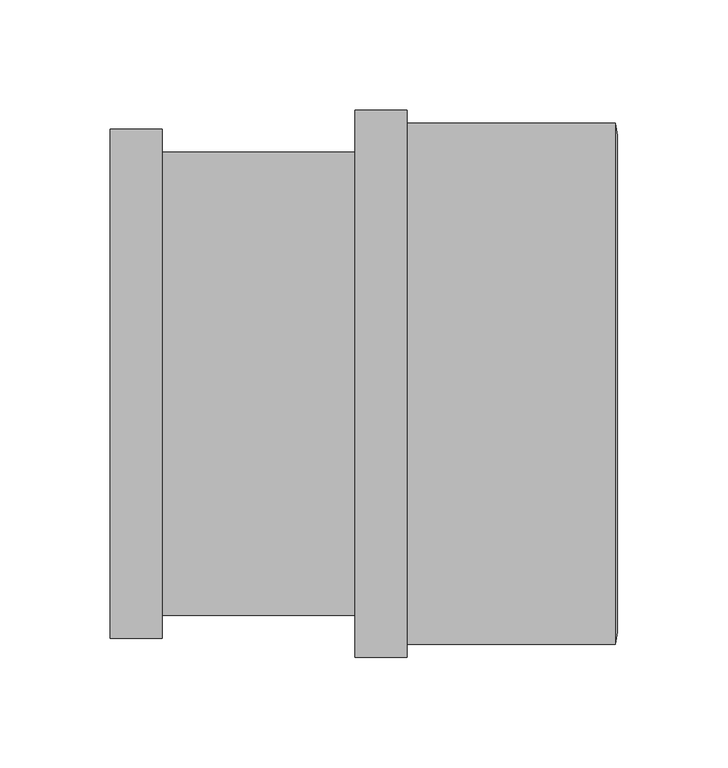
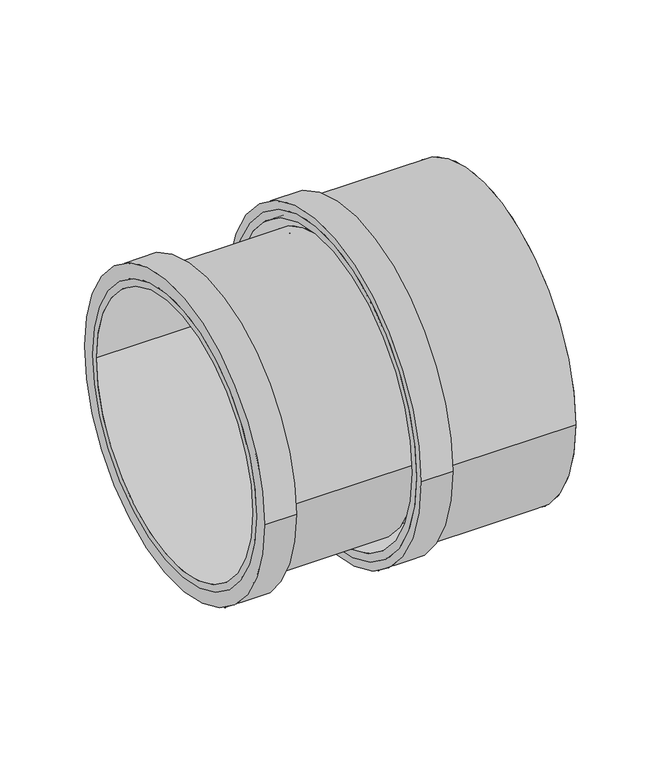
"""IFC4 building model written with IfcOpenShell, lengths in millimetres: pipe fitting geometry, Superdrain SKAM Single socket : Superdrain SKAM Single socket."""

import ifcopenshell
import ifcopenshell.guid

model = None  # the IFC model being written
_history = None  # IfcOwnerHistory: only IFC2X3 demands one
_inside = {}  # id of a spatial element -> (the spatial element, [elements in it])
_under = {}  # id of a project, library or spatial element -> (it, [spatial elements below it])
_declared = {}  # id of a project -> (the project, [libraries it declares])
_typed = {}  # id of a type object -> (the type object, [elements of that type])
_made_of = {}  # id of a material, layer set ... -> (it, [elements and type objects made of it])


def new_model(schema):
    """Start an empty IFC model of exactly this schema.

    Asked for "IFC4X3", IfcOpenShell would pick the latest addendum, in which some entities
    have other attributes; the version numbers below select the first issue.
    IFC2X3 requires an IfcOwnerHistory on every rooted entity: one is made here for all.
    """
    global model, _history
    if schema == "IFC4X3":
        model = ifcopenshell.file(schema_version=(4, 3, 0, 0))
    else:
        model = ifcopenshell.file(schema=schema)
    _inside.clear()
    _under.clear()
    _declared.clear()
    _typed.clear()
    _made_of.clear()
    _history = None
    if model.schema == "IFC2X3":
        org = make("IfcOrganization", Name="unknown")
        user = make(
            "IfcPersonAndOrganization",
            ThePerson=make("IfcPerson", FamilyName="unknown"),
            TheOrganization=org,
        )
        app = make(
            "IfcApplication",
            ApplicationDeveloper=org,
            Version="unknown",
            ApplicationFullName="unknown",
            ApplicationIdentifier="unknown",
        )
        _history = make(
            "IfcOwnerHistory",
            OwningUser=user,
            OwningApplication=app,
            ChangeAction="ADDED",
            CreationDate=0,
        )
    return model


def make(cls, **values):
    """One entity of the class cls with the attributes given. An attribute that is None is left unset."""
    return model.create_entity(
        cls, **{name: value for name, value in values.items() if value is not None}
    )


def rooted(cls, **values):
    """An entity with a GlobalId (a new one), such as an element, a storey or a relation."""
    return make(cls, GlobalId=ifcopenshell.guid.new(), OwnerHistory=_history, **values)


def si_unit(unit_type, name, prefix=None):
    """IfcSIUnit, for example si_unit("LENGTHUNIT", "METRE", prefix="MILLI")."""
    return make("IfcSIUnit", UnitType=unit_type, Prefix=prefix, Name=name)


def assignment(units):
    """IfcUnitAssignment: the units of a project."""
    return None if units is None else make("IfcUnitAssignment", Units=units)


def point(xyz):
    """IfcCartesianPoint."""
    return None if xyz is None else make("IfcCartesianPoint", Coordinates=xyz)


def direction(xyz):
    """IfcDirection."""
    return None if xyz is None else make("IfcDirection", DirectionRatios=xyz)


def frame(location, z_axis=None, x_axis=None):
    """IfcAxis2Placement3D, a coordinate frame: its origin and axes. An axis left out is left unset."""
    return make(
        "IfcAxis2Placement3D",
        Location=point(location),
        Axis=direction(z_axis),
        RefDirection=direction(x_axis),
    )


def frame_2d(location, x_axis=None):
    """IfcAxis2Placement2D, a coordinate frame in the plane: its origin and x axis."""
    return make(
        "IfcAxis2Placement2D", Location=point(location), RefDirection=direction(x_axis)
    )


def origin():
    """The frame at (0, 0, 0) with its axes left unset."""
    return frame((0.0, 0.0, 0.0))


def origin_2d():
    """The frame at (0, 0) in the plane with its x axis left unset."""
    return frame_2d((0.0, 0.0))


def place(relative_to, where):
    """IfcLocalPlacement: puts the frame where relative to a parent placement (None: the world)."""
    return make(
        "IfcLocalPlacement", PlacementRelTo=relative_to, RelativePlacement=where
    )


def context(
    kind, dimensions, precision=None, world=None, true_north=None, identifier=None
):
    """IfcGeometricRepresentationContext, for example the 3D "Model" context."""
    return make(
        "IfcGeometricRepresentationContext",
        ContextIdentifier=identifier,
        ContextType=kind,
        CoordinateSpaceDimension=dimensions,
        Precision=precision,
        WorldCoordinateSystem=world,
        TrueNorth=true_north,
    )


def project(units=None, contexts=None):
    """IfcProject with its units and contexts."""
    return rooted(
        "IfcProject",
        Name="project",
        RepresentationContexts=contexts,
        UnitsInContext=assignment(units),
    )


def spatial(cls, under=None, at=None, **own):
    """A site, building, storey or space (cls), placed at a placement, below another one or the project."""
    s = rooted(cls, ObjectPlacement=at, **own)
    if under is not None:
        _under.setdefault(under.id(), (under, []))[1].append(s)
    return s


def polyline(points):
    """IfcPolyline through the points."""
    return make("IfcPolyline", Points=[point(p) for p in points])


def circle_curve(where, radius):
    """IfcCircle in the frame where."""
    return make("IfcCircle", Position=where, Radius=radius)


def trimmed(basis, trim1, trim2, sense, master):
    """IfcTrimmedCurve: the piece of a basis curve between two trims."""
    return make(
        "IfcTrimmedCurve",
        BasisCurve=basis,
        Trim1=trim1,
        Trim2=trim2,
        SenseAgreement=sense,
        MasterRepresentation=master,
    )


def segment(curve, same_sense, transition):
    """IfcCompositeCurveSegment."""
    return make(
        "IfcCompositeCurveSegment",
        Transition=transition,
        SameSense=same_sense,
        ParentCurve=curve,
    )


def composite_curve(segments, self_intersect=None):
    """IfcCompositeCurve: segments joined end to end."""
    return make("IfcCompositeCurve", Segments=segments, SelfIntersect=self_intersect)


def outline(outer, holes=None, kind="AREA"):
    """IfcArbitraryClosedProfileDef: a profile drawn as a closed curve; with holes, ...WithVoids."""
    if holes is None:
        return make("IfcArbitraryClosedProfileDef", ProfileType=kind, OuterCurve=outer)
    return make(
        "IfcArbitraryProfileDefWithVoids",
        ProfileType=kind,
        OuterCurve=outer,
        InnerCurves=holes,
    )


def extrude(swept, where, along, depth):
    """IfcExtrudedAreaSolid: the profile swept, set in the frame where, extruded along a direction by depth."""
    return make(
        "IfcExtrudedAreaSolid",
        SweptArea=swept,
        Position=where,
        ExtrudedDirection=direction(along),
        Depth=depth,
    )


def shape(context_of_items, identifier, shape_type, items):
    """IfcShapeRepresentation: the items that make up one representation, for example the "Body"."""
    return make(
        "IfcShapeRepresentation",
        ContextOfItems=context_of_items,
        RepresentationIdentifier=identifier,
        RepresentationType=shape_type,
        Items=items,
    )


def source(mapping_origin, context_of_items, identifier, shape_type, items):
    """IfcRepresentationMap: a shape defined once, which mapped items show again and again."""
    return make(
        "IfcRepresentationMap",
        MappingOrigin=mapping_origin,
        MappedRepresentation=shape(context_of_items, identifier, shape_type, items),
    )


def transform(
    local_origin,
    x_axis=None,
    y_axis=None,
    z_axis=None,
    scale=None,
    scale2=None,
    scale3=None,
    uniform=True,
):
    """IfcCartesianTransformationOperator3D, or its non-uniform kind. x_axis, y_axis, z_axis: its Axis1, 2, 3."""
    if uniform:
        return make(
            "IfcCartesianTransformationOperator3D",
            Axis1=direction(x_axis),
            Axis2=direction(y_axis),
            LocalOrigin=point(local_origin),
            Scale=scale,
            Axis3=direction(z_axis),
        )
    return make(
        "IfcCartesianTransformationOperator3DnonUniform",
        Axis1=direction(x_axis),
        Axis2=direction(y_axis),
        LocalOrigin=point(local_origin),
        Scale=scale,
        Axis3=direction(z_axis),
        Scale2=scale2,
        Scale3=scale3,
    )


def mapped(mapping_source, mapping_target):
    """IfcMappedItem: shows the shape of a source again, moved by a transform."""
    return make(
        "IfcMappedItem", MappingSource=mapping_source, MappingTarget=mapping_target
    )


def made_of(thing, what):
    """Note that an element or type object is made of a material, layer set ...; save() writes the relation."""
    if what is not None:
        _made_of.setdefault(what.id(), (what, []))[1].append(thing)
    return thing


def element(
    cls,
    number,
    at=None,
    inside=None,
    cuts=None,
    type_object=None,
    material=None,
    context=None,
    identifier="Body",
    shape_type=None,
    held_by="IfcProductDefinitionShape",
    body=None,
    shapes=None,
    **own,
):
    """One element of the class cls, such as IfcWall. Its Tag is "e" and its number.

    at: its placement. inside: the storey or other place that contains it. cuts: it is an
    opening in that element (IfcRelVoidsElement). A single representation is given by context,
    identifier, shape_type and body (its items); several are given by shapes. held_by: the class
    of the entity that holds the representations. save() writes the other relations.
    """
    e = rooted(cls, Tag="e%d" % number, ObjectPlacement=at, **own)
    if body is not None:
        shapes = [shape(context, identifier, shape_type, body)]
    if shapes is not None:
        e.Representation = make(held_by, Representations=shapes)
    if inside is not None:
        _inside.setdefault(inside.id(), (inside, []))[1].append(e)
    if cuts is not None:
        rooted(
            "IfcRelVoidsElement", RelatingBuildingElement=cuts, RelatedOpeningElement=e
        )
    if type_object is not None:
        _typed.setdefault(type_object.id(), (type_object, []))[1].append(e)
    return made_of(e, material)


def aggregate(whole, parts):
    """IfcRelAggregates: a whole, such as a stair, and the parts it consists of."""
    return rooted("IfcRelAggregates", RelatingObject=whole, RelatedObjects=parts)


def save(model, path):
    """Write the relations noted so far, then the file.

    IfcRelAggregates (storeys below a building ...), IfcRelContainedInSpatialStructure (elements
    in a storey), IfcRelDefinesByType, IfcRelAssociatesMaterial and IfcRelDeclares: one each for
    every whole, place, type object, material and project.
    """
    for whole, parts in _under.values():
        aggregate(whole, parts)
    for where, things in _inside.values():
        rooted(
            "IfcRelContainedInSpatialStructure",
            RelatedElements=things,
            RelatingStructure=where,
        )
    for kind, things in _typed.values():
        rooted("IfcRelDefinesByType", RelatedObjects=things, RelatingType=kind)
    for what, things in _made_of.values():
        rooted("IfcRelAssociatesMaterial", RelatedObjects=things, RelatingMaterial=what)
    for by, libraries in _declared.values():
        rooted("IfcRelDeclares", RelatingContext=by, RelatedDefinitions=libraries)
    model.write(path)


def plane_surface(at):
    """IfcPlane: the flat surface through the origin of the frame at, square to its z axis."""
    return make("IfcPlane", Position=at)


def revolved_surface(curve, axis_point, axis_direction):
    """IfcSurfaceOfRevolution: the curve turned about the line through axis_point along axis_direction."""
    return make(
        "IfcSurfaceOfRevolution",
        SweptCurve=make("IfcArbitraryOpenProfileDef", ProfileType="CURVE", Curve=curve),
        AxisPosition=make("IfcAxis1Placement", Location=point(axis_point), Axis=direction(axis_direction)),
    )


def advanced_brep(points, edges, surfaces, faces):
    """IfcAdvancedBrep: a solid bounded by faces that lie on surfaces and meet in shared edges.

    An edge is (start, end): straight between two places in points (the first is 0);
    or (start, end, curve); or (start, end, curve, False) where it runs against its curve.
    A face is (place in surfaces, loops), or (place, loops, False) where it looks against
    its surface's normal. A loop lists edges by number (the first is 1), with a minus sign
    where the edge is run from its end to its start. The first loop is the outer one.
    """
    corners = [point(p) for p in points]
    vertices = [make("IfcVertexPoint", VertexGeometry=c) for c in corners]
    made = []
    for start, end, *more in edges:
        made.append(
            make(
                "IfcEdgeCurve",
                EdgeStart=vertices[start],
                EdgeEnd=vertices[end],
                EdgeGeometry=more[0] if more else make("IfcPolyline", Points=[corners[start], corners[end]]),
                SameSense=more[1] if len(more) > 1 else True,
            )
        )
    hull = []
    for where, loops, *sense in faces:
        bounds = []
        for j, loop in enumerate(loops):
            ring = [make("IfcOrientedEdge", EdgeElement=made[abs(k) - 1], Orientation=k > 0) for k in loop]
            bounds.append(
                make(
                    "IfcFaceOuterBound" if j == 0 else "IfcFaceBound",
                    Bound=make("IfcEdgeLoop", EdgeList=ring),
                    Orientation=True,
                )
            )
        hull.append(make("IfcAdvancedFace", Bounds=bounds, FaceSurface=surfaces[where], SameSense=sense[0] if sense else True))
    return make("IfcAdvancedBrep", Outer=make("IfcClosedShell", CfsFaces=hull))


def pipe_fitting_61a439ca(model_context):
    return source(origin(), model_context, "Body", "SolidModel", [
        extrude(outline(composite_curve([segment(trimmed(circle_curve(origin_2d(), 118.125), [point((-118.125, 0.0))], [point((118.125, 0.0))], False, "CARTESIAN"), True, "CONTINUOUS"), segment(trimmed(circle_curve(origin_2d(), 118.125), [point((118.125, 0.0))], [point((-118.125, 0.0))], False, "CARTESIAN"), True, "CONTINUOUS")], self_intersect=False), holes=[composite_curve([segment(trimmed(circle_curve(origin_2d(), 112.5), [point((-112.5, 0.0))], [point((112.5, 0.0))], True, "CARTESIAN"), True, "CONTINUOUS"), segment(trimmed(circle_curve(origin_2d(), 112.5), [point((112.5, 0.0))], [point((-112.5, 0.0))], True, "CARTESIAN"), True, "CONTINUOUS")], self_intersect=False)]), frame((-12.0, 0.0, 0.0), z_axis=(1.0, 0.0, 0.0), x_axis=(0.0, 1.0, 0.0)), (0.0, 0.0, 1.0), 118.0),
        extrude(outline(composite_curve([segment(trimmed(circle_curve(origin_2d(), 124.03125), [point((-124.03125, 0.0))], [point((124.03125, 0.0))], False, "CARTESIAN"), True, "CONTINUOUS"), segment(trimmed(circle_curve(origin_2d(), 124.03125), [point((124.03125, 0.0))], [point((-124.03125, 0.0))], False, "CARTESIAN"), True, "CONTINUOUS")], self_intersect=False), holes=[composite_curve([segment(trimmed(circle_curve(origin_2d(), 112.5), [point((-112.5, 0.0))], [point((112.5, 0.0))], True, "CARTESIAN"), True, "CONTINUOUS"), segment(trimmed(circle_curve(origin_2d(), 112.5), [point((112.5, 0.0))], [point((-112.5, 0.0))], True, "CARTESIAN"), True, "CONTINUOUS")], self_intersect=False)]), frame((-12.0, 0.0, 0.0), z_axis=(1.0, 0.0, 0.0), x_axis=(0.0, 1.0, 0.0)), (0.0, 0.0, 1.0), 23.6),
        advanced_brep(
        [(107.0, -112.5, 0.0), (107.0, 112.5, 0.0), (106.0, -118.125, 0.0), (106.0, 118.125, 0.0)],
        [
            (0, 1, circle_curve(frame((107.0, 0.0, 0.0), z_axis=(1.0, 0.0, 0.0), x_axis=(0.0, -1.0, 0.0)), 112.5)),
            (1, 0, circle_curve(frame((107.0, 0.0, 0.0), z_axis=(1.0, 0.0, 0.0), x_axis=(0.0, 1.0, 0.0)), 112.5)),
            (2, 3, circle_curve(frame((106.0, 0.0, 0.0), z_axis=(-1.0, 0.0, 0.0), x_axis=(0.0, 1.0, 0.0)), 118.125)),
            (3, 2, circle_curve(frame((106.0, 0.0, 0.0), z_axis=(-1.0, 0.0, 0.0), x_axis=(0.0, -1.0, 0.0)), 118.125)),
            (3, 1),
            (0, 2),
        ],
        [
            plane_surface(frame((107.0, 0.0, 0.0), z_axis=(1.0, 0.0, 0.0), x_axis=(0.0, 0.0, -1.0))),
            plane_surface(frame((106.0, 0.0, 0.0), z_axis=(-1.0, 0.0, 0.0), x_axis=(0.0, 0.0, -1.0))),
            revolved_surface(polyline([(107.0, -112.5, 0.0), (106.0, -118.125, 0.0)]), (127.0, 0.0, 0.0), (-1.0, 0.0, 0.0)),
            revolved_surface(polyline([(107.0, 112.5, 0.0), (106.0, 118.125, 0.0)]), (127.0, 0.0, 0.0), (-1.0, 0.0, 0.0)),
        ],
        [
            (0, [[1, 2]]),
            (1, [[3, 4]]),
            (2, [[-4, 5, -1, 6]]),
            (3, [[-3, -6, -2, -5]]),
        ],
    ),
        extrude(outline(composite_curve([segment(trimmed(circle_curve(origin_2d(), 105.0), [point((-105.0, 0.0))], [point((105.0, 0.0))], False, "CARTESIAN"), True, "CONTINUOUS"), segment(trimmed(circle_curve(origin_2d(), 105.0), [point((105.0, 0.0))], [point((-105.0, 0.0))], False, "CARTESIAN"), True, "CONTINUOUS")], self_intersect=False), holes=[composite_curve([segment(trimmed(circle_curve(origin_2d(), 100.0), [point((-100.0, 0.0))], [point((100.0, 0.0))], True, "CARTESIAN"), True, "CONTINUOUS"), segment(trimmed(circle_curve(origin_2d(), 100.0), [point((100.0, 0.0))], [point((-100.0, 0.0))], True, "CARTESIAN"), True, "CONTINUOUS")], self_intersect=False)]), frame((-123.0, 0.0, 0.0), z_axis=(1.0, 0.0, 0.0), x_axis=(0.0, 1.0, 0.0)), (0.0, 0.0, 1.0), 118.0),
        extrude(outline(composite_curve([segment(trimmed(circle_curve(origin_2d(), 115.5), [point((-115.5, 0.0))], [point((115.5, 0.0))], False, "CARTESIAN"), True, "CONTINUOUS"), segment(trimmed(circle_curve(origin_2d(), 115.5), [point((115.5, 0.0))], [point((-115.5, 0.0))], False, "CARTESIAN"), True, "CONTINUOUS")], self_intersect=False), holes=[composite_curve([segment(trimmed(circle_curve(origin_2d(), 100.0), [point((-100.0, 0.0))], [point((100.0, 0.0))], True, "CARTESIAN"), True, "CONTINUOUS"), segment(trimmed(circle_curve(origin_2d(), 100.0), [point((100.0, 0.0))], [point((-100.0, 0.0))], True, "CARTESIAN"), True, "CONTINUOUS")], self_intersect=False)]), frame((-123.0, 0.0, 0.0), z_axis=(1.0, 0.0, 0.0), x_axis=(0.0, 1.0, 0.0)), (0.0, 0.0, 1.0), 23.6),
        advanced_brep(
        [(-4.0, -100.0, 0.0), (-4.0, 100.0, 0.0), (-5.0, -105.0, 0.0), (-5.0, 105.0, 0.0)],
        [
            (0, 1, circle_curve(frame((-4.0, 0.0, 0.0), z_axis=(1.0, 0.0, 0.0), x_axis=(0.0, -1.0, 0.0)), 100.0)),
            (1, 0, circle_curve(frame((-4.0, 0.0, 0.0), z_axis=(1.0, 0.0, 0.0), x_axis=(0.0, 1.0, 0.0)), 100.0)),
            (2, 3, circle_curve(frame((-5.0, 0.0, 0.0), z_axis=(-1.0, 0.0, 0.0), x_axis=(0.0, 1.0, 0.0)), 105.0)),
            (3, 2, circle_curve(frame((-5.0, 0.0, 0.0), z_axis=(-1.0, 0.0, 0.0), x_axis=(0.0, -1.0, 0.0)), 105.0)),
            (3, 1),
            (0, 2),
        ],
        [
            plane_surface(frame((-4.0, 0.0, 0.0), z_axis=(1.0, 0.0, 0.0), x_axis=(0.0, 0.0, -1.0))),
            plane_surface(frame((-5.0, 0.0, 0.0), z_axis=(-1.0, 0.0, 0.0), x_axis=(0.0, 0.0, -1.0))),
            revolved_surface(polyline([(-4.0, -100.0, 0.0), (-5.0, -105.0, 0.0)]), (16.0, 0.0, 0.0), (-1.0, 0.0, 0.0)),
            revolved_surface(polyline([(-4.0, 100.0, 0.0), (-5.0, 105.0, 0.0)]), (16.0, 0.0, 0.0), (-1.0, 0.0, 0.0)),
        ],
        [
            (0, [[1, 2]]),
            (1, [[3, 4]]),
            (2, [[-4, 5, -1, 6]]),
            (3, [[-3, -6, -2, -5]]),
        ],
    ),
        extrude(outline(composite_curve([segment(trimmed(circle_curve(origin_2d(), 100.0), [point((-100.0, 0.0))], [point((100.0, 0.0))], False, "CARTESIAN"), True, "CONTINUOUS"), segment(trimmed(circle_curve(origin_2d(), 100.0), [point((100.0, 0.0))], [point((-100.0, 0.0))], False, "CARTESIAN"), True, "CONTINUOUS")], self_intersect=False)), frame((-5.0, 0.0, 0.0), z_axis=(1.0, 0.0, 0.0), x_axis=(0.0, 1.0, 0.0)), (0.0, 0.0, 1.0), 111.0),
    ])


if __name__ == "__main__":
    model = new_model("IFC4")
    model_context = context("Model", 3, world=origin())
    ifc_project = project(units=[si_unit("LENGTHUNIT", "METRE", prefix="MILLI")], contexts=[model_context])
    site = spatial("IfcSite", under=ifc_project)
    building = spatial("IfcBuilding", under=site)
    placement = place(None, origin())
    pipe_fitting_shape = pipe_fitting_61a439ca(model_context)
    element("IfcPipeFitting", 1, ObjectType="Superdrain SKAM Single socket : Superdrain SKAM Single socket", at=placement, inside=building, context=model_context, shape_type="MappedRepresentation", body=[
        mapped(pipe_fitting_shape, transform((0.0, 0.0, 0.0), x_axis=(1.0, 0.0, 0.0), y_axis=(0.0, 1.0, 0.0), z_axis=(0.0, 0.0, 1.0))),
    ])
    save(model, "model.ifc")
